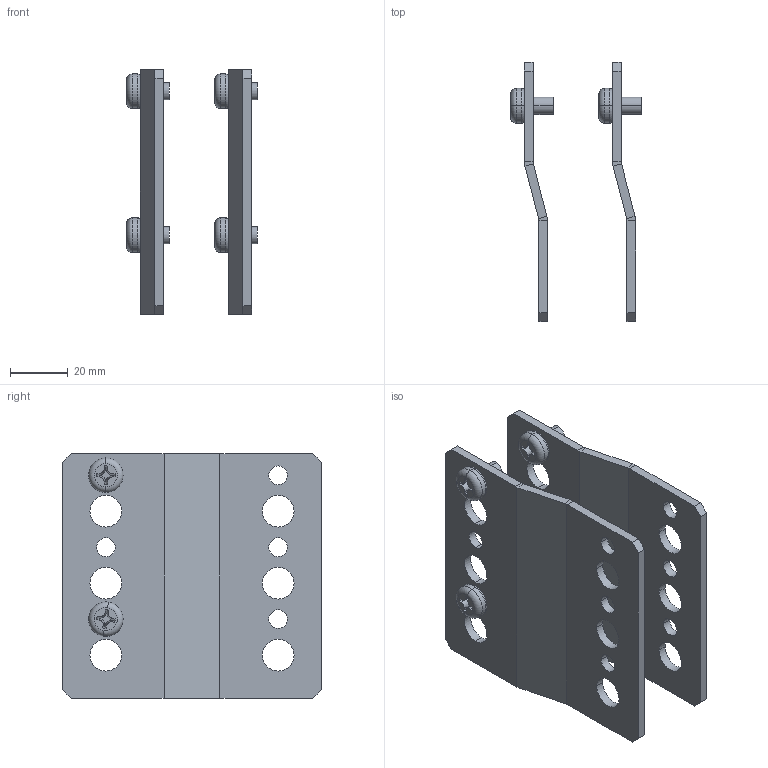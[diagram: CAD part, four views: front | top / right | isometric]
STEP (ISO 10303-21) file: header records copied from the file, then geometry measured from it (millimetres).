
FILE_DESCRIPTION (( 'STEP AP214' ), '1' );
FILE_NAME ('FO-00-NPE-1 Êðîíøòåéí N-PE òèï 1 (2 øò.óïàê.).STEP', '2025-08-06T10:49:51', ( '' ), ( '' ), 'SwSTEP 2.0', 'SolidWorks 2023', '' );
FILE_SCHEMA (( 'AUTOMOTIVE_DESIGN' ));
Length unit declared in the file: millimetre
Products named in the file (4): Винт М6х10 IEK; FO-00-NPE-1 Кронштейн N-PE тип 1; FO-00-NPE-1 Кронштейн N-PE тип 1 (2 шт.упак.); Кронштейн N-PE тип 1
Assembly tree (5 placements, depth 3):
  FO-00-NPE-1 Кронштейн N-PE тип 1 (2 шт.упак.)
    Кронштейн N-PE тип 1  x2
      FO-00-NPE-1 Кронштейн N-PE тип 1
      Винт М6х10 IEK
Bounding box: 45.41 x 89.86 x 85 mm (x, y, z)
Volume: 44402.5 mm3; surface area: 34129.4 mm2
Topology: 6 solids, 6 shells, 216 faces, 564 edges, 368 vertices
Faces by surface type: plane 92, cylinder 64, cone 44, torus 16
Entity records: 2623 total; most frequent: DIRECTION 455, CARTESIAN_POINT 453, ORIENTED_EDGE 414, EDGE_CURVE 207, AXIS2_PLACEMENT_3D 170, VERTEX_POINT 136, VECTOR 115, LINE 115
